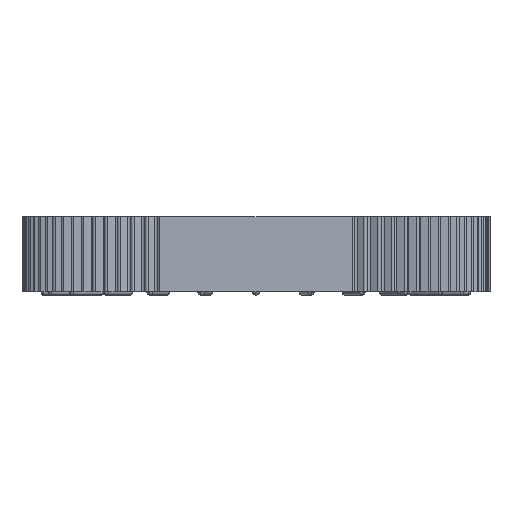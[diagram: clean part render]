
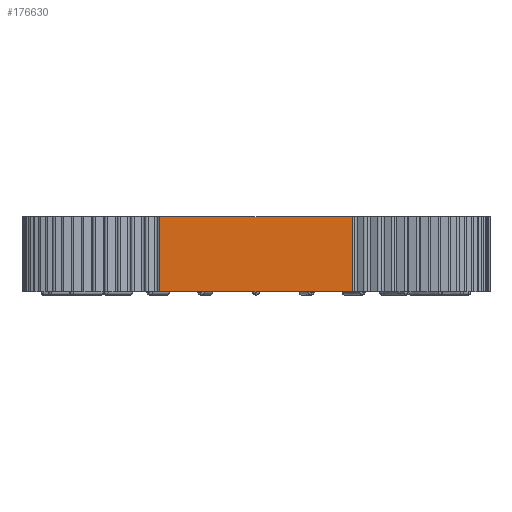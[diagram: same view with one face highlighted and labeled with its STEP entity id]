
A CAD part, left-side view. The second image highlights one B-rep face of the part: STEP entity #176630.
In plain terms, the highlighted planar face has unit normal (-1, 0, 0).
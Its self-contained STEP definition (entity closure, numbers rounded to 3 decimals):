
#93110=CARTESIAN_POINT('',(28.474,60.83,0.));
#93120=VERTEX_POINT('',#93110);
#93150=CARTESIAN_POINT('',(28.474,0.,0.));
#93160=DIRECTION('',(0.,1.,0.));
#93170=VECTOR('',#93160,1.);
#93180=LINE('',#93150,#93170);
#93190=CARTESIAN_POINT('',(28.474,42.9,0.));
#93200=VERTEX_POINT('',#93190);
#93210=EDGE_CURVE('',#93200,#93120,#93180,.T.);
#173740=CARTESIAN_POINT('',(28.474,60.83,0.));
#173750=DIRECTION('',(0.,0.,1.));
#173760=VECTOR('',#173750,1.);
#173770=LINE('',#173740,#173760);
#173780=CARTESIAN_POINT('',(28.474,60.83,7.))
;
#173790=VERTEX_POINT('',#173780);
#173800=EDGE_CURVE('',#93120,#173790,#173770,.T.);
#176400=CARTESIAN_POINT('',(28.474,42.7,0.));
#176410=DIRECTION('',(-1.,0.,0.));
#176420=DIRECTION('',(0.,1.,0.));
#176430=AXIS2_PLACEMENT_3D('',#176400,#176410,#176420);
#176440=PLANE('',#176430);
#176450=CARTESIAN_POINT('',(28.474,42.9,0.));
#176460=DIRECTION('',(0.,0.,1.));
#176470=VECTOR('',#176460,1.);
#176480=LINE('',#176450,#176470);
#176490=CARTESIAN_POINT('',(28.474,42.9,7.))
;
#176500=VERTEX_POINT('',#176490);
#176510=EDGE_CURVE('',#93200,#176500,#176480,.T.);
#176520=ORIENTED_EDGE('',*,*,#176510,.T.);
#176530=ORIENTED_EDGE('',*,*,#93210,.F.);
#176540=ORIENTED_EDGE('',*,*,#173800,.F.);
#176550=CARTESIAN_POINT('',(28.474,0.,7.));
#176560=DIRECTION('',(0.,-1.,0.));
#176570=VECTOR('',#176560,1.);
#176580=LINE('',#176550,#176570);
#176590=EDGE_CURVE('',#173790,#176500,#176580,.T.);
#176600=ORIENTED_EDGE('',*,*,#176590,.F.);
#176610=EDGE_LOOP('',(#176600,#176540,#176530,#176520));
#176620=FACE_OUTER_BOUND('',#176610,.T.);
#176630=ADVANCED_FACE('',(#176620),#176440,.T.);
